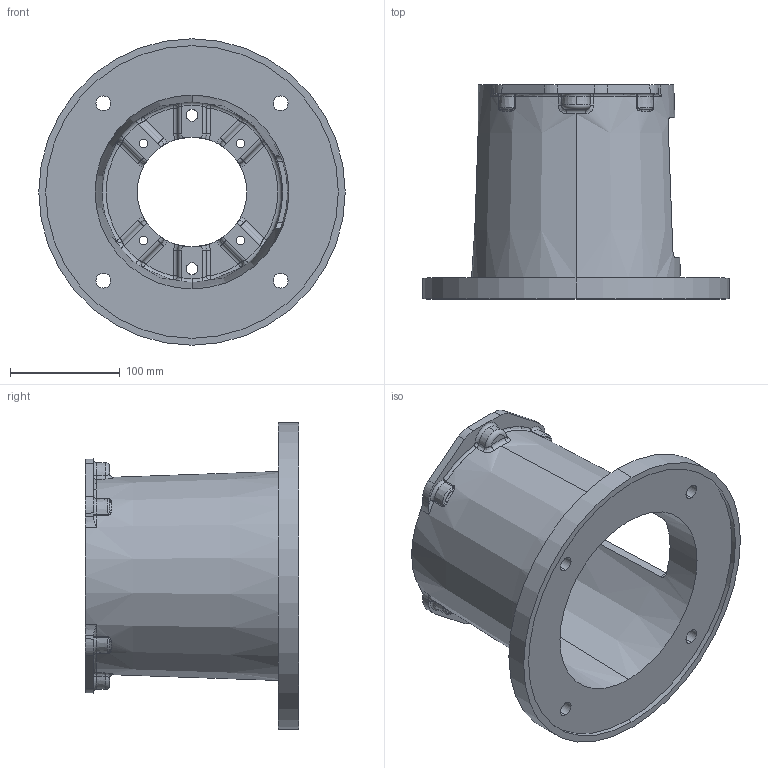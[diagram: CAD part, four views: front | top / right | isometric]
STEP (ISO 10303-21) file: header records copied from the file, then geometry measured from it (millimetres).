
FILE_DESCRIPTION (( 'STEP AP203' ), '1' );
FILE_NAME ('M28475100M.STEP', '2015-01-19T16:35:28', ( '' ), ( '' ), 'SwSTEP 2.0', 'SolidWorks 2014', '' );
FILE_SCHEMA (( 'CONFIG_CONTROL_DESIGN' ));
Length unit declared in the file: inch
Products named in the file (1): M28475100M
Bounding box: 279.4 x 195.07 x 279.4 mm (x, y, z)
Volume: 1428389.4 mm3; surface area: 325679.6 mm2
Topology: 1 solids, 1 shells, 354 faces, 902 edges, 532 vertices
Faces by surface type: torus 106, cylinder 86, bspline 64, plane 50, sphere 24, cone 24
Entity records: 14513 total; most frequent: CARTESIAN_POINT 6373, ORIENTED_EDGE 1764, DIRECTION 1686, EDGE_CURVE 882, AXIS2_PLACEMENT_3D 763, VERTEX_POINT 532, CIRCLE 472, EDGE_LOOP 380
